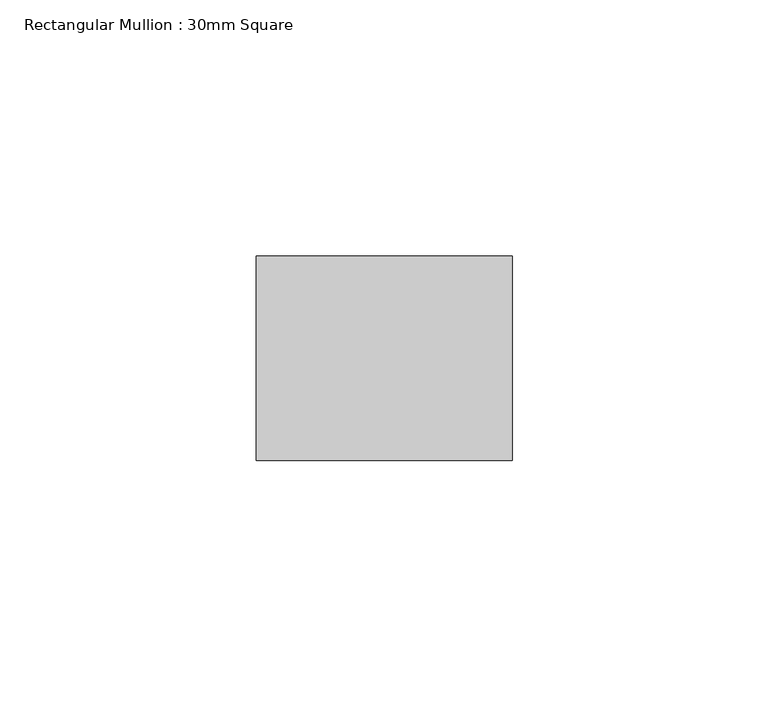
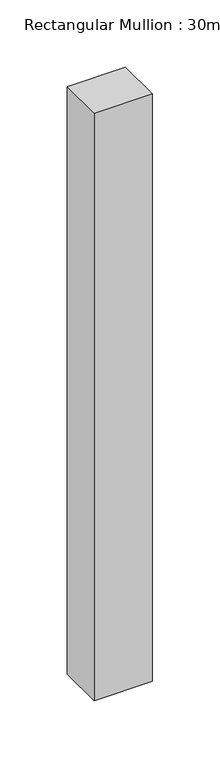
"""IFC4 building model written with IfcOpenShell, lengths in millimetres: member geometry, Rectangular Mullion : 30mm Square."""

from ifc_helpers import new_model, si_unit, frame, origin, place, context, project, spatial, polyline, outline, extrude, source, transform, mapped, element, save


def rectangular_mullion_30mm_square_36c9886d(model_context):
    return source(origin(), model_context, "Body", "SweptSolid", [
        extrude(outline(polyline([(0.0, 20.0), (0.0, -20.0), (-50.0, -20.0), (-50.0, 20.0), (0.0, 20.0)])), frame((0.0, 0.0, -533.4400063), z_axis=(0.0, 0.0, 1.0), x_axis=(1.0, 0.0, 0.0)), (0.0, 0.0, 1.0), 533.4400063),
    ])


if __name__ == "__main__":
    model = new_model("IFC4")
    model_context = context("Model", 3, world=origin())
    ifc_project = project(units=[si_unit("LENGTHUNIT", "METRE", prefix="MILLI")], contexts=[model_context])
    site = spatial("IfcSite", under=ifc_project)
    building = spatial("IfcBuilding", under=site)
    placement = place(None, origin())
    rectangular_mullion_30mm_square_shape = rectangular_mullion_30mm_square_36c9886d(model_context)
    element("IfcMember", 1, ObjectType="Rectangular Mullion : 30mm Square", at=placement, inside=building, context=model_context, shape_type="MappedRepresentation", body=[
        mapped(rectangular_mullion_30mm_square_shape, transform((0.0, 0.0, 0.0), x_axis=(1.0, 0.0, 0.0), y_axis=(0.0, 1.0, 0.0), z_axis=(0.0, 0.0, 1.0))),
    ])
    save(model, "model.ifc")
